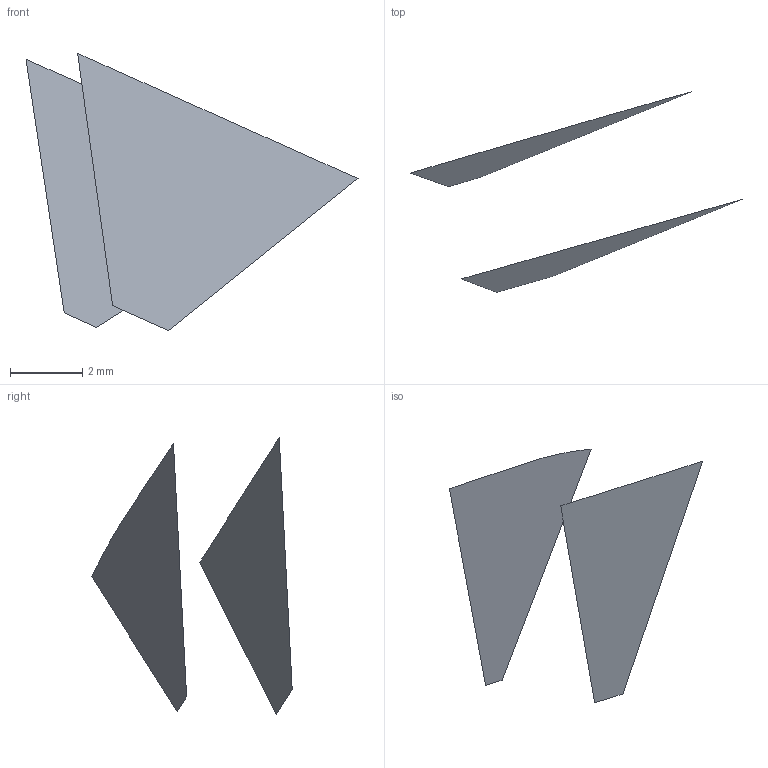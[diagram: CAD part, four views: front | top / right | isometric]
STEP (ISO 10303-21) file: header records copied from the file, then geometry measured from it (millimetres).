
FILE_DESCRIPTION(('FreeCAD Model'),'2;1');
FILE_NAME('Open CASCADE Shape Model','2022-05-22T07:50:31',('FreeCAD'),( 'FreeCAD'),'Open CASCADE STEP processor 7.5','FreeCAD','Unknown');
FILE_SCHEMA(('AUTOMOTIVE_DESIGN { 1 0 10303 214 1 1 1 1 }'));
Length unit declared in the file: millimetre
Products named in the file (3): Open CASCADE STEP translator 7.5 1; Open CASCADE STEP translator 7.5 1.1; Open CASCADE STEP translator 7.5 1.2
Assembly tree (2 placements, depth 2):
  Open CASCADE STEP translator 7.5 1
    Open CASCADE STEP translator 7.5 1.1
    Open CASCADE STEP translator 7.5 1.2
Bounding box: 9.19 x 5.55 x 7.68 mm (x, y, z)
Surface area: 62.9 mm2 (no closed solid volume)
Topology: 0 solids, 2 shells, 2 faces, 37 edges, 37 vertices
Faces by surface type: bspline 2
Entity records: 553 total; most frequent: CARTESIAN_POINT 196, B_SPLINE_CURVE_WITH_KNOTS 74, ORIENTED_EDGE 37, EDGE_CURVE 37, VERTEX_POINT 37, SURFACE_CURVE 37, PCURVE 37, DEFINITIONAL_REPRESENTATION 37
